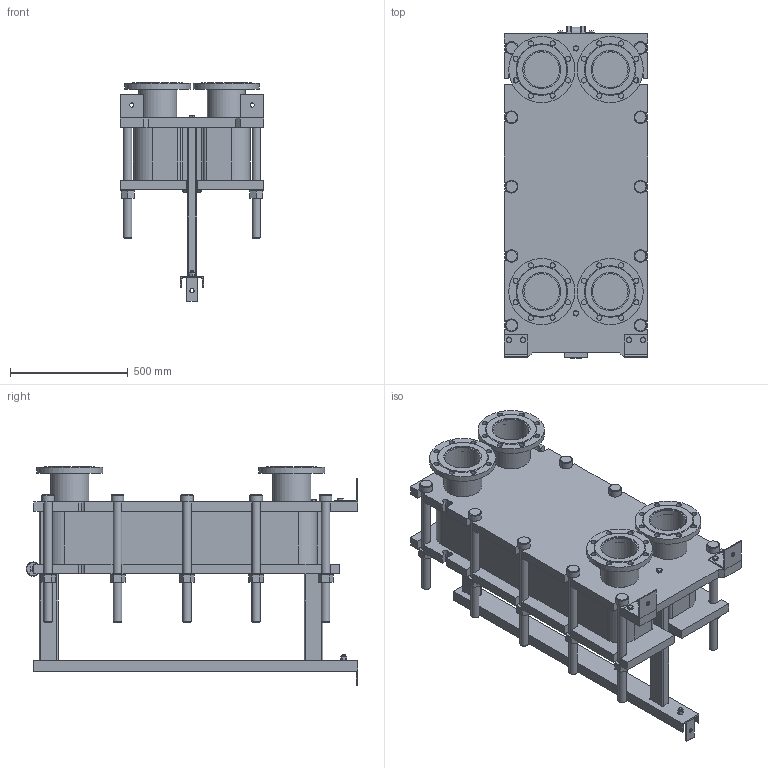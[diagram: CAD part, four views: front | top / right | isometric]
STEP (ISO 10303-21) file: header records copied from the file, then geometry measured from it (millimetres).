
FILE_DESCRIPTION(/* description */ (''),/* implementation_level */ '2;1');
FILE_NAME(/* name */ 'C:\Users\zhuro\Desktop\ENCO\TO\ЭН-041\ЭН-0,5-041-65-1.stp',/* time_stamp */ '2022-06-06T10:54:39+03:00',/* author */ ('zhuro'),/* organization */ (''),/* preprocessor_version */ 'ST-DEVELOPER v18.1',/* originating_system */ 'Autodesk Inventor 2022',/* authorisation */ '');
FILE_SCHEMA (('AUTOMOTIVE_DESIGN { 1 0 10303 214 3 1 1 }'));
Length unit declared in the file: millimetre
Products named in the file (1): ЭН-0,5-041-65-1
Bounding box: 610 x 1406.5 x 927.5 mm (x, y, z)
Volume: 204140172.1 mm3; surface area: 8252789.8 mm2
Topology: 52 solids, 52 shells, 711 faces, 1696 edges, 1094 vertices
Faces by surface type: plane 487, cylinder 177, cone 41, torus 6
Full cylindrical faces by diameter (mm): 8 x4, 10 x2, 16 x8, 18 x3, 22 x32, 36 x24, 50 x1, 54 x10, 60 x12, 151 x4, 161 x8, 280 x4
Entity records: 22667 total; most frequent: CARTESIAN_POINT 5230, DIRECTION 3644, ORIENTED_EDGE 3392, EDGE_CURVE 1696, AXIS2_PLACEMENT_3D 1272, LINE 1100, VECTOR 1100, VERTEX_POINT 1094
